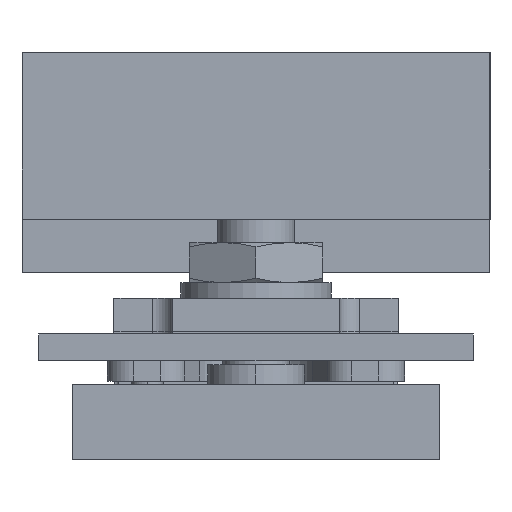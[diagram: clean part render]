
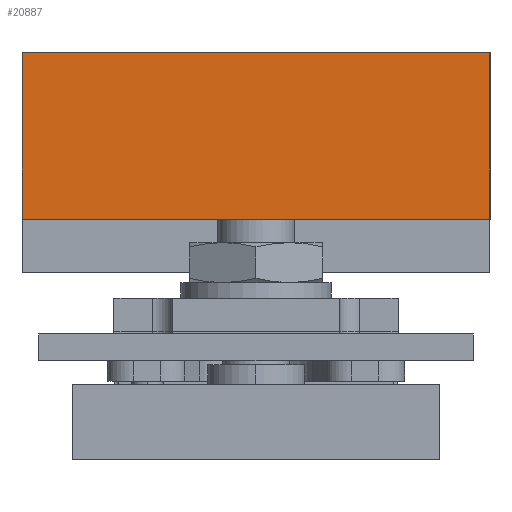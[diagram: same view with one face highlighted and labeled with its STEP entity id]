
A CAD part, left-side view. The second image highlights one B-rep face of the part: STEP entity #20887.
In plain terms, the highlighted planar face has unit normal (-1, 0, 0).
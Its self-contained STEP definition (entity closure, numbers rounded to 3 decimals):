
#1726 = LINE ( 'NONE', #28985, #21526 ) ;
#4431 = VECTOR ( 'NONE', #39079, 1000. ) ;
#4846 = VECTOR ( 'NONE', #9604, 1000. ) ;
#5333 = PLANE ( 'NONE',  #43445 ) ;
#6984 = EDGE_CURVE ( 'NONE', #8598, #14004, #38318, .T. ) ;
#7327 = EDGE_LOOP ( 'NONE', ( #9504, #32921, #13379, #13822 ) ) ;
#7337 = VECTOR ( 'NONE', #17679, 1000. ) ;
#8598 = VERTEX_POINT ( 'NONE', #30587 ) ;
#9504 = ORIENTED_EDGE ( 'NONE', *, *, #33945, .T. ) ;
#9604 = DIRECTION ( 'NONE',  ( 0., 0., 1. ) ) ;
#9677 = CARTESIAN_POINT ( 'NONE',  ( -26.8, 3.2, 14. ) ) ;
#13379 = ORIENTED_EDGE ( 'NONE', *, *, #6984, .F. ) ;
#13822 = ORIENTED_EDGE ( 'NONE', *, *, #34384, .F. ) ;
#14004 = VERTEX_POINT ( 'NONE', #9677 ) ;
#15017 = LINE ( 'NONE', #25248, #4431 ) ;
#15737 = LINE ( 'NONE', #43432, #4846 ) ;
#17679 = DIRECTION ( 'NONE',  ( 0., -1., 0. ) ) ;
#19440 = CARTESIAN_POINT ( 'NONE',  ( -26.8, 3.2, 14. ) ) ;
#19496 = CARTESIAN_POINT ( 'NONE',  ( -26.8, 13.18, -14. ) ) ;
#20887 = ADVANCED_FACE ( 'NONE', ( #39852 ), #5333, .F. ) ;
#21526 = VECTOR ( 'NONE', #21728, 1000. ) ;
#21728 = DIRECTION ( 'NONE',  ( 0., -1., 0. ) ) ;
#22625 = DIRECTION ( 'NONE',  ( 0., 0., -1. ) ) ;
#25248 = CARTESIAN_POINT ( 'NONE',  ( -26.8, 3.2, 14. ) ) ;
#27350 = EDGE_CURVE ( 'NONE', #14004, #28226, #15017, .T. ) ;
#28226 = VERTEX_POINT ( 'NONE', #30160 ) ;
#28985 = CARTESIAN_POINT ( 'NONE',  ( -26.8, 3.2, -14. ) ) ;
#30160 = CARTESIAN_POINT ( 'NONE',  ( -26.8, 3.2, -14. ) ) ;
#30587 = CARTESIAN_POINT ( 'NONE',  ( -26.8, 13.18, 14. ) ) ;
#32921 = ORIENTED_EDGE ( 'NONE', *, *, #27350, .F. ) ;
#33945 = EDGE_CURVE ( 'NONE', #42729, #28226, #1726, .T. ) ;
#34384 = EDGE_CURVE ( 'NONE', #42729, #8598, #15737, .T. ) ;
#34914 = CARTESIAN_POINT ( 'NONE',  ( -26.8, 3.2, 14. ) ) ;
#36232 = DIRECTION ( 'NONE',  ( 1., 0., 0. ) ) ;
#38318 = LINE ( 'NONE', #34914, #7337 ) ;
#39079 = DIRECTION ( 'NONE',  ( 0., 0., -1. ) ) ;
#39852 = FACE_OUTER_BOUND ( 'NONE', #7327, .T. ) ;
#42729 = VERTEX_POINT ( 'NONE', #19496 ) ;
#43432 = CARTESIAN_POINT ( 'NONE',  ( -26.8, 13.18, -24.474 ) ) ;
#43445 = AXIS2_PLACEMENT_3D ( 'NONE', #19440, #36232, #22625 ) ;
